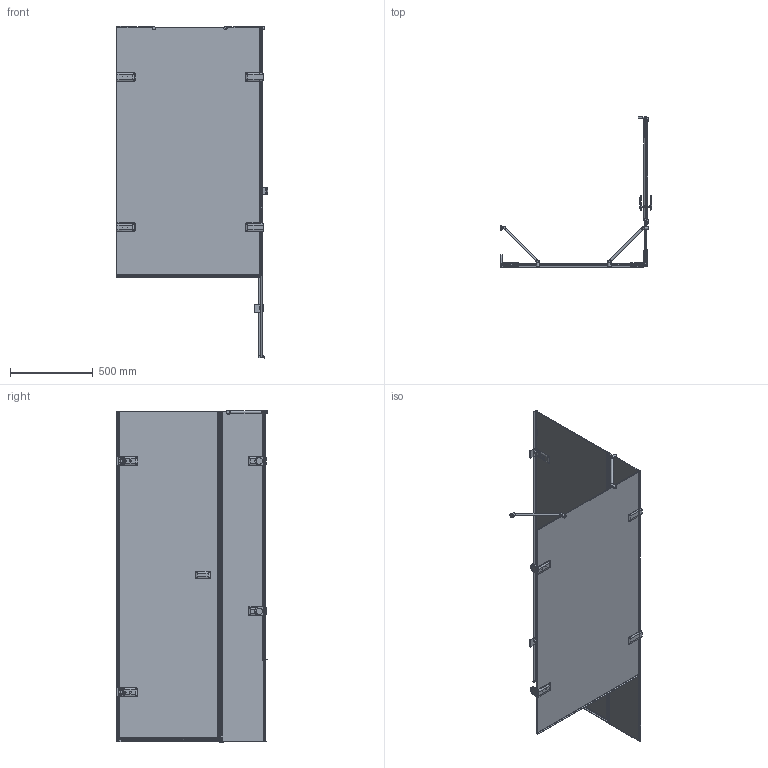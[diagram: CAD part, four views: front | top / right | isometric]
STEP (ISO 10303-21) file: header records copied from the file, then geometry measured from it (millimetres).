
FILE_DESCRIPTION(/* description */ (''),/* implementation_level */ '2;1');
FILE_NAME(/* name */ 'E:\Работа\Сергей\Душевые кабинки\! Работа\! 003AV_TREND\TREND SQUARE GK-863AV\TREND SQUARE GK-863AV правая модель\TREND SQUARE GK-863AV ПРАВАЯ-3D.stp',/* time_stamp */ '2017-10-15T18:38:14+03:00',/* author */ ('PC'),/* organization */ (''),/* preprocessor_version */ 'ST-DEVELOPER v15.2',/* originating_system */ 'Autodesk Inventor 2014',/* authorisation */ '');
FILE_SCHEMA (('AUTOMOTIVE_DESIGN { 1 0 10303 214 3 1 1 }'));
Length unit declared in the file: millimetre
Products named in the file (1): TREND SQUARE GK-863AV ПРАВАЯ-
3D
Bounding box: 915.6 x 911.63 x 2009.49 mm (x, y, z)
Volume: 19988252.4 mm3; surface area: 6837898 mm2
Topology: 7 solids, 15 shells, 1184 faces, 3106 edges, 1906 vertices
Faces by surface type: plane 686, cylinder 325, bspline 102, torus 48, sphere 15, cone 8
Full cylindrical faces by diameter (mm): 4.917 x4, 12 x2, 15 x2, 20 x4, 26 x1, 28 x2, 28.5 x2, 40 x2
Entity records: 42174 total; most frequent: CARTESIAN_POINT 12476, ORIENTED_EDGE 5978, DIRECTION 5742, EDGE_CURVE 2987, LINE 2012, VECTOR 2012, VERTEX_POINT 1883, AXIS2_PLACEMENT_3D 1865
